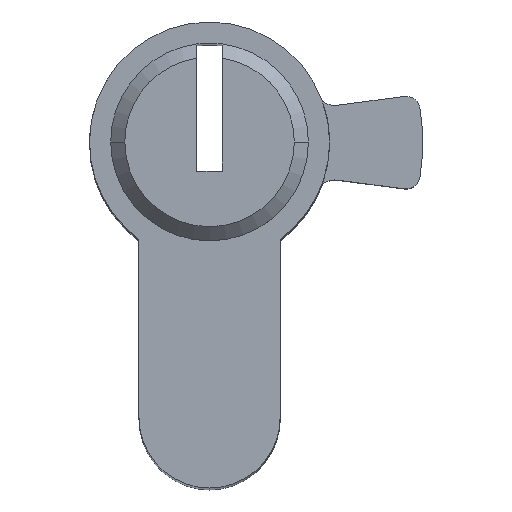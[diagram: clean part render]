
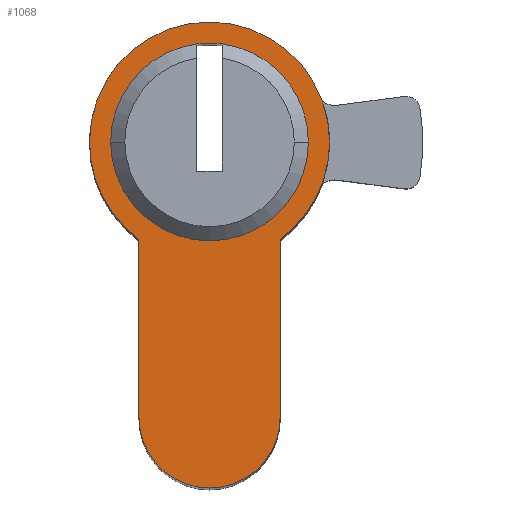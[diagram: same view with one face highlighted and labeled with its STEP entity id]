
A CAD part, top view. The second image highlights one B-rep face of the part: STEP entity #1068.
In plain terms, the highlighted planar face has unit normal (0, 0, 1).
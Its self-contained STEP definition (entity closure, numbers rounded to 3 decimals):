
#2 = DIRECTION ( 'NONE',  ( 0., 0., 1. ) ) ;
#33 = CIRCLE ( 'NONE', #1088, 7. ) ;
#39 = DIRECTION ( 'NONE',  ( 0., 0., 1. ) ) ;
#69 = LINE ( 'NONE', #747, #369 ) ;
#73 = VERTEX_POINT ( 'NONE', #413 ) ;
#88 = ORIENTED_EDGE ( 'NONE', *, *, #866, .T. ) ;
#120 = CARTESIAN_POINT ( 'NONE',  ( 8.5, 0., 30. ) ) ;
#189 = EDGE_CURVE ( 'NONE', #367, #766, #1063, .T. ) ;
#193 = DIRECTION ( 'NONE',  ( 0., 0., 1. ) ) ;
#255 = CARTESIAN_POINT ( 'NONE',  ( -5., -19.5, 30. ) ) ;
#258 = VERTEX_POINT ( 'NONE', #1162 ) ;
#277 = VERTEX_POINT ( 'NONE', #898 ) ;
#281 = ORIENTED_EDGE ( 'NONE', *, *, #633, .F. ) ;
#286 = CARTESIAN_POINT ( 'NONE',  ( 0., 0., 30. ) ) ;
#294 = DIRECTION ( 'NONE',  ( 0., 0., 1. ) ) ;
#306 = DIRECTION ( 'NONE',  ( 1., 0., 0. ) ) ;
#330 = CARTESIAN_POINT ( 'NONE',  ( 5., -19.5, 30. ) ) ;
#331 = EDGE_CURVE ( 'NONE', #1533, #1006, #69, .T. ) ;
#344 = AXIS2_PLACEMENT_3D ( 'NONE', #569, #1126, #306 ) ;
#358 = LINE ( 'NONE', #330, #922 ) ;
#367 = VERTEX_POINT ( 'NONE', #1043 ) ;
#369 = VECTOR ( 'NONE', #905, 1000. ) ;
#387 = DIRECTION ( 'NONE',  ( 1., 0., 0. ) ) ;
#399 = VERTEX_POINT ( 'NONE', #120 ) ;
#407 = DIRECTION ( 'NONE',  ( 1., 0., 0. ) ) ;
#413 = CARTESIAN_POINT ( 'NONE',  ( -8.5, 0., 30. ) ) ;
#442 = DIRECTION ( 'NONE',  ( 1., 0., 0. ) ) ;
#445 = ORIENTED_EDGE ( 'NONE', *, *, #837, .T. ) ;
#457 = ORIENTED_EDGE ( 'NONE', *, *, #530, .F. ) ;
#458 = CIRCLE ( 'NONE', #923, 7. ) ;
#530 = EDGE_CURVE ( 'NONE', #1469, #258, #33, .T. ) ;
#536 = CIRCLE ( 'NONE', #1091, 8.5 ) ;
#569 = CARTESIAN_POINT ( 'NONE',  ( 0., 0., 30. ) ) ;
#570 = DIRECTION ( 'NONE',  ( 1., 0., 0. ) ) ;
#591 = CIRCLE ( 'NONE', #1289, 8.5 ) ;
#592 = DIRECTION ( 'NONE',  ( 1., 0., 0. ) ) ;
#632 = CARTESIAN_POINT ( 'NONE',  ( 5., -19.5, 30. ) ) ;
#633 = EDGE_CURVE ( 'NONE', #766, #1469, #1673, .T. ) ;
#656 = FACE_OUTER_BOUND ( 'NONE', #1495, .T. ) ;
#672 = EDGE_CURVE ( 'NONE', #1006, #1682, #1457, .T. ) ;
#673 = ORIENTED_EDGE ( 'NONE', *, *, #331, .T. ) ;
#728 = ORIENTED_EDGE ( 'NONE', *, *, #189, .F. ) ;
#730 = EDGE_CURVE ( 'NONE', #399, #73, #591, .T. ) ;
#747 = CARTESIAN_POINT ( 'NONE',  ( -5., -6.874, 30. ) ) ;
#752 = DIRECTION ( 'NONE',  ( 1., 0., 0. ) ) ;
#756 = DIRECTION ( 'NONE',  ( 0., 1., 0. ) ) ;
#766 = VERTEX_POINT ( 'NONE', #833 ) ;
#791 = PLANE ( 'NONE',  #859 ) ;
#802 = DIRECTION ( 'NONE',  ( 0., 0., 1. ) ) ;
#833 = CARTESIAN_POINT ( 'NONE',  ( 7., 0., 30. ) ) ;
#837 = EDGE_CURVE ( 'NONE', #73, #1533, #536, .T. ) ;
#859 = AXIS2_PLACEMENT_3D ( 'NONE', #1341, #802, #407 ) ;
#866 = EDGE_CURVE ( 'NONE', #1682, #277, #358, .T. ) ;
#883 = CARTESIAN_POINT ( 'NONE',  ( 0., -19.5, 30. ) ) ;
#898 = CARTESIAN_POINT ( 'NONE',  ( 5., -6.874, 30. ) ) ;
#905 = DIRECTION ( 'NONE',  ( 0., -1., 0. ) ) ;
#922 = VECTOR ( 'NONE', #756, 1000. ) ;
#923 = AXIS2_PLACEMENT_3D ( 'NONE', #286, #940, #1102 ) ;
#940 = DIRECTION ( 'NONE',  ( 0., 0., 1. ) ) ;
#946 = AXIS2_PLACEMENT_3D ( 'NONE', #1245, #39, #570 ) ;
#952 = CIRCLE ( 'NONE', #1094, 8.5 ) ;
#968 = ORIENTED_EDGE ( 'NONE', *, *, #730, .T. ) ;
#978 = ORIENTED_EDGE ( 'NONE', *, *, #672, .T. ) ;
#981 = CARTESIAN_POINT ( 'NONE',  ( 0., 0., 30. ) ) ;
#999 = CARTESIAN_POINT ( 'NONE',  ( 0., 0., 30. ) ) ;
#1006 = VERTEX_POINT ( 'NONE', #255 ) ;
#1007 = AXIS2_PLACEMENT_3D ( 'NONE', #883, #1423, #1562 ) ;
#1043 = CARTESIAN_POINT ( 'NONE',  ( -7., 0., 30. ) ) ;
#1060 = ORIENTED_EDGE ( 'NONE', *, *, #1557, .T. ) ;
#1063 = CIRCLE ( 'NONE', #946, 7. ) ;
#1068 = ADVANCED_FACE ( 'NONE', ( #1465, #656 ), #791, .T. ) ;
#1088 = AXIS2_PLACEMENT_3D ( 'NONE', #1726, #2, #387 ) ;
#1091 = AXIS2_PLACEMENT_3D ( 'NONE', #981, #294, #442 ) ;
#1094 = AXIS2_PLACEMENT_3D ( 'NONE', #999, #193, #592 ) ;
#1102 = DIRECTION ( 'NONE',  ( 1., 0., 0. ) ) ;
#1126 = DIRECTION ( 'NONE',  ( 0., 0., 1. ) ) ;
#1154 = CARTESIAN_POINT ( 'NONE',  ( 0., 0., 30. ) ) ;
#1162 = CARTESIAN_POINT ( 'NONE',  ( -0.9, 6.942, 30. ) ) ;
#1245 = CARTESIAN_POINT ( 'NONE',  ( 0., 0., 30. ) ) ;
#1251 = CARTESIAN_POINT ( 'NONE',  ( -5., -6.874, 30. ) ) ;
#1289 = AXIS2_PLACEMENT_3D ( 'NONE', #1154, #1680, #752 ) ;
#1341 = CARTESIAN_POINT ( 'NONE',  ( 0., 0., 30. ) ) ;
#1423 = DIRECTION ( 'NONE',  ( 0., 0., 1. ) ) ;
#1430 = EDGE_CURVE ( 'NONE', #258, #367, #458, .T. ) ;
#1457 = CIRCLE ( 'NONE', #1007, 5. ) ;
#1465 = FACE_BOUND ( 'NONE', #1610, .T. ) ;
#1469 = VERTEX_POINT ( 'NONE', #1599 ) ;
#1495 = EDGE_LOOP ( 'NONE', ( #1060, #968, #445, #673, #978, #88 ) ) ;
#1533 = VERTEX_POINT ( 'NONE', #1251 ) ;
#1557 = EDGE_CURVE ( 'NONE', #277, #399, #952, .T. ) ;
#1562 = DIRECTION ( 'NONE',  ( 1., 0., 0. ) ) ;
#1587 = ORIENTED_EDGE ( 'NONE', *, *, #1430, .F. ) ;
#1599 = CARTESIAN_POINT ( 'NONE',  ( 0.9, 6.942, 30. ) ) ;
#1610 = EDGE_LOOP ( 'NONE', ( #457, #281, #728, #1587 ) ) ;
#1673 = CIRCLE ( 'NONE', #344, 7. ) ;
#1680 = DIRECTION ( 'NONE',  ( 0., 0., 1. ) ) ;
#1682 = VERTEX_POINT ( 'NONE', #632 ) ;
#1726 = CARTESIAN_POINT ( 'NONE',  ( 0., 0., 30. ) ) ;
